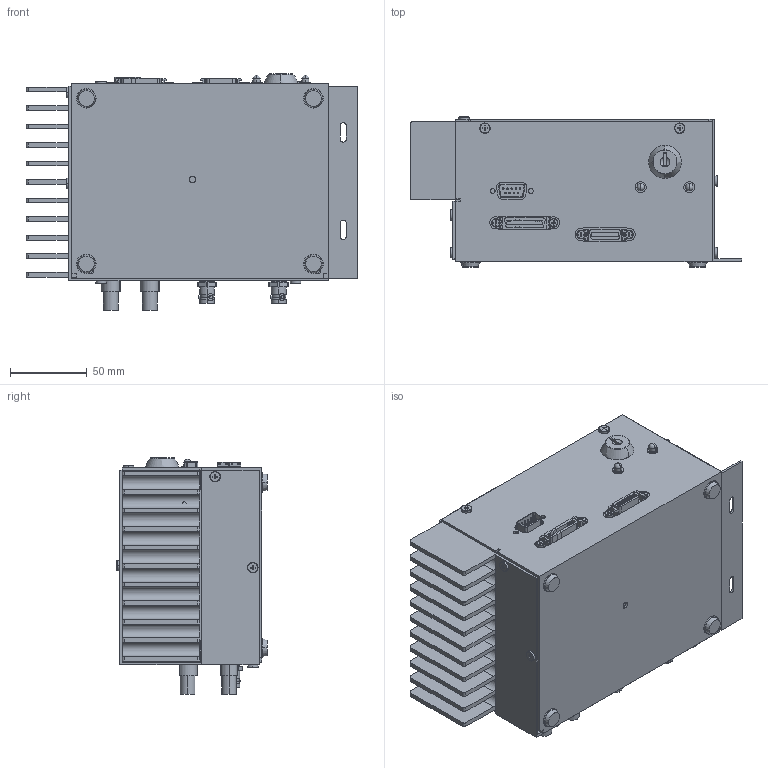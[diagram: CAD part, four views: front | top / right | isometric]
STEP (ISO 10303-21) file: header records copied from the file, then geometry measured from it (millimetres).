
FILE_DESCRIPTION((''),'2;1');
FILE_NAME('2520-REMOTE-TEST-HEAD_ASM','2017-03-17T',('rrich'),('Keithley Instruments'),'CREO PARAMETRIC BY PTC INC, 2016050','CREO PARAMETRIC BY PTC INC, 2016050','');
FILE_SCHEMA(('CONFIG_CONTROL_DESIGN'));
Length unit declared in the file: inch
Products named in the file (19): 2520-324; 2520-325; 2520-325-1; 2520-324_ASM; 2520-326; FE-10; CS-995-ROTATED-NUT; CS-1118-1; 4-40X1-4PPH; 3M-10236-0210EC; CS-547; 2520-328; 6-32X1-4PPH; SW-513; PL-112-2; PL-112-3; CS-506; CS-848-9; 2520-REMOTE-TEST-HEAD_ASM
Assembly tree (35 placements, depth 3):
  2520-REMOTE-TEST-HEAD_ASM
    2520-324_ASM
      2520-324
      2520-325
      2520-325-1
    2520-326
    FE-10  x4
    CS-995-ROTATED-NUT  x2
    CS-1118-1
    4-40X1-4PPH  x4
    3M-10236-0210EC
    CS-547  x2
    2520-328
    6-32X1-4PPH  x9
    SW-513
    PL-112-2
    PL-112-3
    CS-506  x2
    CS-848-9
Bounding box: 216.03 x 97.94 x 154.15 mm (x, y, z)
Volume: 294630.6 mm3; surface area: 274972.1 mm2
Topology: 32 solids, 32 shells, 1861 faces, 17544 edges, 28747 vertices
Faces by surface type: plane 1115, cylinder 644, cone 82, torus 8, bspline 6, sphere 6
Entity records: 105590 total; most frequent: CARTESIAN_POINT 20239, DIRECTION 20029, VECTOR 15073, LINE 15073, TRIMMED_CURVE 12731, ORIENTED_EDGE 6852, EDGE_CURVE 3426, AXIS2_PLACEMENT_3D 2478
